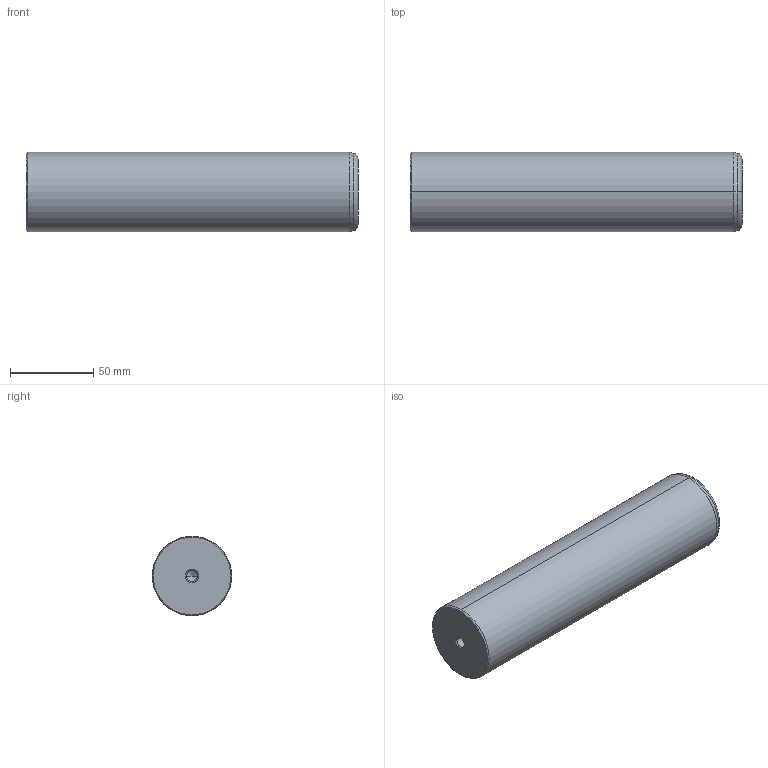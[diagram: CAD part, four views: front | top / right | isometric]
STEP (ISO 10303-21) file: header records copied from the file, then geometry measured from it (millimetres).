
FILE_DESCRIPTION(('CATIA V5 STEP Exchange'),'2;1');
FILE_NAME('C:\Users\Utente\Desktop\IO LAVORO\3D X SITO CF\X SITO\720\720-48x200.stp','2020-12-30T21:52:22+00:00',('none'),('none'),'CATIA Version 5 Release 20 GA (IN-10)','CATIA V5 STEP AP203','none');
FILE_SCHEMA(('CONFIG_CONTROL_DESIGN'));
Length unit declared in the file: millimetre
Products named in the file (1): 720-48x200
Bounding box: 200 x 48 x 48 mm (x, y, z)
Volume: 359400.9 mm3; surface area: 34386.7 mm2
Topology: 1 solids, 1 shells, 22 faces, 56 edges, 34 vertices
Faces by surface type: cone 12, cylinder 6, plane 2, torus 2
Entity records: 755 total; most frequent: CARTESIAN_POINT 216, ORIENTED_EDGE 104, DIRECTION 89, EDGE_CURVE 52, AXIS2_PLACEMENT_3D 50, VERTEX_POINT 34, CIRCLE 27, EDGE_LOOP 24
